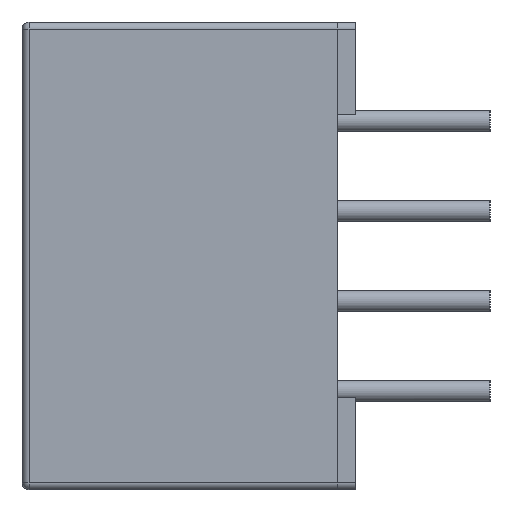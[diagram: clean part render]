
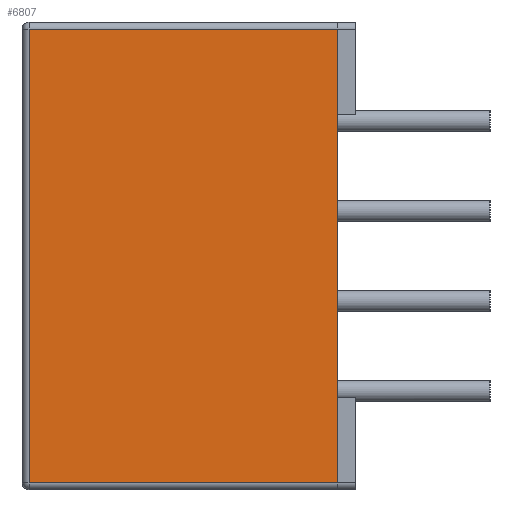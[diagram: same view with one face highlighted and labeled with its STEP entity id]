
A CAD part, left-side view. The second image highlights one B-rep face of the part: STEP entity #6807.
In plain terms, the highlighted planar face has unit normal (-1, 0, 0).
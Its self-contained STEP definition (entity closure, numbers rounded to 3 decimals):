
#5089 = CARTESIAN_POINT ( 'NONE',  ( -14.5, 0., 6.6 ) ) ;
#6554 = VERTEX_POINT ( 'NONE', #29218 ) ;
#6602 = EDGE_CURVE ( 'NONE', #6603, #6554, #29337, .T. ) ;
#6603 = VERTEX_POINT ( 'NONE', #29333 ) ;
#6785 = VERTEX_POINT ( 'NONE', #29429 ) ;
#6786 = ORIENTED_EDGE ( 'NONE', *, *, #6787, .T. ) ;
#6787 = EDGE_CURVE ( 'NONE', #6785, #6788, #29428, .T. ) ;
#6788 = VERTEX_POINT ( 'NONE', #29423 ) ;
#6789 = ORIENTED_EDGE ( 'NONE', *, *, #6790, .T. ) ;
#6790 = EDGE_CURVE ( 'NONE', #6788, #6603, #29685, .T. ) ;
#6791 = ORIENTED_EDGE ( 'NONE', *, *, #6602, .T. ) ;
#6792 = ORIENTED_EDGE ( 'NONE', *, *, #6793, .T. ) ;
#6793 = EDGE_CURVE ( 'NONE', #6554, #6794, #29746, .T. ) ;
#6794 = VERTEX_POINT ( 'NONE', #29742 ) ;
#6795 = ORIENTED_EDGE ( 'NONE', *, *, #6796, .T. ) ;
#6796 = EDGE_CURVE ( 'NONE', #6794, #6811, #29741, .T. ) ;
#6807 = ADVANCED_FACE ( 'NONE', ( #29780 ), #29779, .T. ) ;
#6808 = EDGE_LOOP ( 'NONE', ( #6809, #6786, #6789, #6791, #6792, #6795 ) ) ;
#6809 = ORIENTED_EDGE ( 'NONE', *, *, #6810, .T. ) ;
#6810 = EDGE_CURVE ( 'NONE', #6811, #6785, #29777, .T. ) ;
#6811 = VERTEX_POINT ( 'NONE', #29770 ) ;
#29218 = CARTESIAN_POINT ( 'NONE',  ( -14.5, 0., 4. ) ) ;
#29333 = CARTESIAN_POINT ( 'NONE',  ( -14.5, 0., -4. ) ) ;
#29334 = DIRECTION ( 'NONE',  ( 0., 0., 1. ) ) ;
#29335 = VECTOR ( 'NONE', #29334, 1000. ) ;
#29336 = CARTESIAN_POINT ( 'NONE',  ( -14.5, 0., 6.6 ) ) ;
#29337 = LINE ( 'NONE', #29336, #29335 ) ;
#29423 = CARTESIAN_POINT ( 'NONE',  ( -14.5, 0., -6.4 ) ) ;
#29425 = DIRECTION ( 'NONE',  ( 0., -1., 0. ) ) ;
#29426 = VECTOR ( 'NONE', #29425, 1000. ) ;
#29427 = CARTESIAN_POINT ( 'NONE',  ( -14.5, 0.005, -6.4 ) ) ;
#29428 = LINE ( 'NONE', #29427, #29426 ) ;
#29429 = CARTESIAN_POINT ( 'NONE',  ( -14.497, 8.69, -6.397 ) ) ;
#29685 = LINE ( 'NONE', #5089, #29749 ) ;
#29738 = DIRECTION ( 'NONE',  ( 0., 1., 0. ) ) ;
#29739 = VECTOR ( 'NONE', #29738, 1000. ) ;
#29740 = CARTESIAN_POINT ( 'NONE',  ( -14.5, 0., 6.4 ) ) ;
#29741 = LINE ( 'NONE', #29740, #29739 ) ;
#29742 = CARTESIAN_POINT ( 'NONE',  ( -14.5, 0., 6.4 ) ) ;
#29743 = DIRECTION ( 'NONE',  ( 0., 0., 1. ) ) ;
#29744 = VECTOR ( 'NONE', #29743, 1000. ) ;
#29745 = CARTESIAN_POINT ( 'NONE',  ( -14.5, 0., 6.6 ) ) ;
#29746 = LINE ( 'NONE', #29745, #29744 ) ;
#29748 = DIRECTION ( 'NONE',  ( 0., 0., 1. ) ) ;
#29749 = VECTOR ( 'NONE', #29748, 1000. ) ;
#29770 = CARTESIAN_POINT ( 'NONE',  ( -14.497, 8.69, 6.397 ) ) ;
#29771 = DIRECTION ( 'NONE',  ( 0., 0., -1. ) ) ;
#29772 = VECTOR ( 'NONE', #29771, 1000. ) ;
#29773 = CARTESIAN_POINT ( 'NONE',  ( -14.497, 8.69, -6.597 ) ) ;
#29774 = DIRECTION ( 'NONE',  ( 0., -1., 0. ) ) ;
#29775 = DIRECTION ( 'NONE',  ( -1., 0., 0. ) ) ;
#29776 = CARTESIAN_POINT ( 'NONE',  ( -14.5, 0., 6.6 ) ) ;
#29777 = LINE ( 'NONE', #29773, #29772 ) ;
#29778 = AXIS2_PLACEMENT_3D ( 'NONE', #29776, #29775, #29774 ) ;
#29779 = PLANE ( 'NONE',  #29778 ) ;
#29780 = FACE_OUTER_BOUND ( 'NONE', #6808, .T. ) ;
